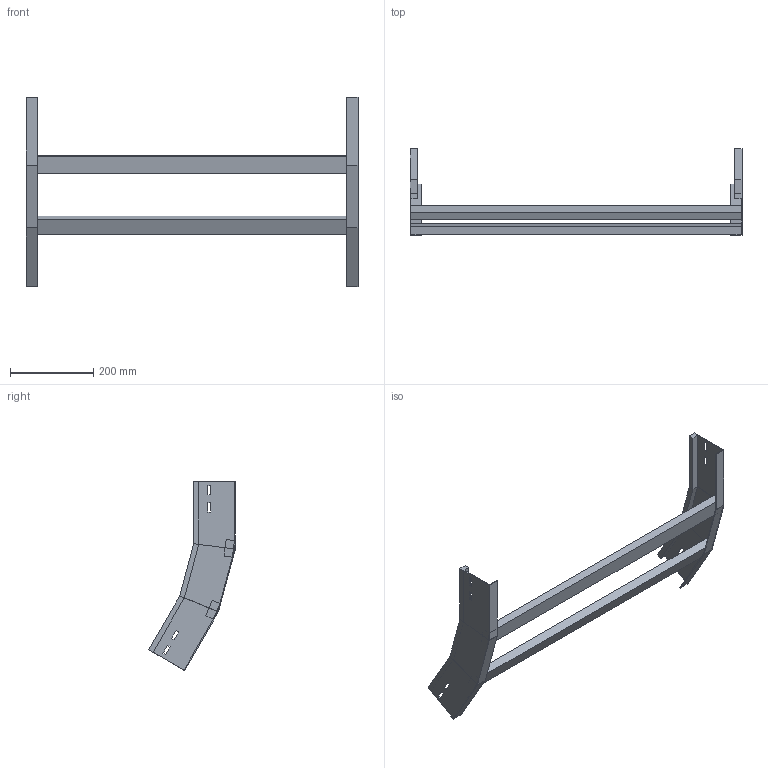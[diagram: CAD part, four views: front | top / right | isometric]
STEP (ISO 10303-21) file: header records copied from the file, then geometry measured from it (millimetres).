
FILE_DESCRIPTION (( 'STEP AP214' ), '1' );
FILE_NAME ('B2X32B5D800XX.step', '2025-03-20T09:58:57', ( '' ), ( '' ), 'SwSTEP 2.0', 'SolidWorks 2023', '' );
FILE_SCHEMA (( 'AUTOMOTIVE_DESIGN' ));
Length unit declared in the file: millimetre
Products named in the file (3): TRAVERSINO_800; LONGH.SALITA_30°_H100_R500; B2X32B5D800XX
Assembly tree (4 placements, depth 2):
  B2X32B5D800XX
    LONGH.SALITA_30°_H100_R500  x2
    TRAVERSINO_800  x2
Bounding box: 800 x 208.63 x 455.43 mm (x, y, z)
Volume: 1684081 mm3; surface area: 458187.6 mm2
Topology: 4 solids, 4 shells, 96 faces, 232 edges, 144 vertices
Faces by surface type: plane 96
Entity records: 1472 total; most frequent: CARTESIAN_POINT 243, ORIENTED_EDGE 232, DIRECTION 226, LINE 116, VECTOR 116, EDGE_CURVE 116, VERTEX_POINT 72, EDGE_LOOP 56
